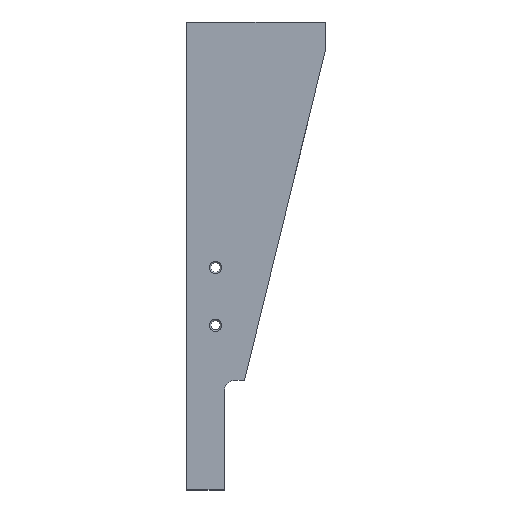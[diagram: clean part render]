
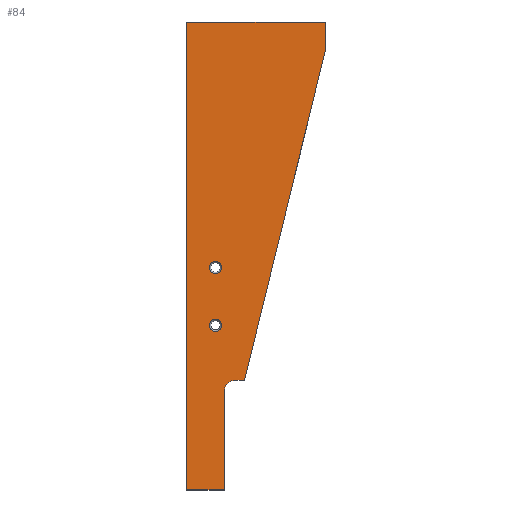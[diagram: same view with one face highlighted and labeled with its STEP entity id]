
A CAD part, top view. The second image highlights one B-rep face of the part: STEP entity #84.
In plain terms, the highlighted planar face has unit normal (0, 0, 1).
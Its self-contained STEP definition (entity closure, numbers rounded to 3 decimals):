
#84=ADVANCED_FACE('',(#306,#308,#310),#312,.T.);
#306=FACE_BOUND('',#307,.T.);
#307=EDGE_LOOP('',(#500,#501,#502,#503,#504,#505,#506,#507));
#308=FACE_BOUND('',#309,.T.);
#309=EDGE_LOOP('',(#508));
#310=FACE_BOUND('',#311,.T.);
#311=EDGE_LOOP('',(#509));
#312=PLANE('',#313);
#313=AXIS2_PLACEMENT_3D('',#314,#315,#316);
#314=CARTESIAN_POINT('',(0.,0.,10.));
#315=DIRECTION('',(0.,0.,1.));
#316=DIRECTION('',(-1.,0.,0.));
#500=ORIENTED_EDGE('',*,*,#580,.T.);
#501=ORIENTED_EDGE('',*,*,#581,.T.);
#502=ORIENTED_EDGE('',*,*,#582,.T.);
#503=ORIENTED_EDGE('',*,*,#562,.T.);
#504=ORIENTED_EDGE('',*,*,#577,.T.);
#505=ORIENTED_EDGE('',*,*,#583,.T.);
#506=ORIENTED_EDGE('',*,*,#584,.T.);
#507=ORIENTED_EDGE('',*,*,#585,.T.);
#508=ORIENTED_EDGE('',*,*,#586,.T.);
#509=ORIENTED_EDGE('',*,*,#587,.T.);
#562=EDGE_CURVE('',#607,#605,#608,.T.);
#577=EDGE_CURVE('',#605,#633,#635,.T.);
#580=EDGE_CURVE('',#640,#641,#642,.T.);
#581=EDGE_CURVE('',#641,#643,#644,.T.);
#582=EDGE_CURVE('',#643,#607,#645,.T.);
#583=EDGE_CURVE('',#633,#646,#647,.T.);
#584=EDGE_CURVE('',#646,#648,#649,.T.);
#585=EDGE_CURVE('',#648,#640,#650,.T.);
#586=EDGE_CURVE('',#651,#651,#652,.F.);
#587=EDGE_CURVE('',#653,#653,#654,.F.);
#605=VERTEX_POINT('',#683);
#607=VERTEX_POINT('',#687);
#608=LINE('',#688,#689);
#633=VERTEX_POINT('',#747);
#635=LINE('',#751,#752);
#640=VERTEX_POINT('',#764);
#641=VERTEX_POINT('',#765);
#642=LINE('',#766,#767);
#643=VERTEX_POINT('',#769);
#644=LINE('',#770,#771);
#645=LINE('',#773,#774);
#646=VERTEX_POINT('',#776);
#647=LINE('',#777,#778);
#648=VERTEX_POINT('',#780);
#649=LINE('',#781,#782);
#650=CIRCLE('',#784,4.);
#651=VERTEX_POINT('',#788);
#652=CIRCLE('',#789,2.121);
#653=VERTEX_POINT('',#793);
#654=CIRCLE('',#794,2.121);
#683=CARTESIAN_POINT('',(2.25,162.,10.));
#687=CARTESIAN_POINT('',(50.25,162.,10.));
#688=CARTESIAN_POINT('',(50.25,162.,10.));
#689=VECTOR('',#690,1.);
#690=DIRECTION('',(-1.,0.,0.));
#747=CARTESIAN_POINT('',(2.25,0.,10.));
#751=CARTESIAN_POINT('',(2.25,162.,10.));
#752=VECTOR('',#753,1.);
#753=DIRECTION('',(0.,-1.,0.));
#764=CARTESIAN_POINT('',(19.25,38.,10.));
#765=CARTESIAN_POINT('',(22.25,38.,10.));
#766=CARTESIAN_POINT('',(19.25,38.,10.));
#767=VECTOR('',#768,1.);
#768=DIRECTION('',(1.,0.,0.));
#769=CARTESIAN_POINT('',(50.25,152.,10.));
#770=CARTESIAN_POINT('',(22.25,38.,10.));
#771=VECTOR('',#772,1.);
#772=DIRECTION('',(0.239,0.971,0.));
#773=CARTESIAN_POINT('',(50.25,152.,10.));
#774=VECTOR('',#775,1.);
#775=DIRECTION('',(0.,1.,0.));
#776=CARTESIAN_POINT('',(15.25,0.,10.));
#777=CARTESIAN_POINT('',(2.25,0.,10.));
#778=VECTOR('',#779,1.);
#779=DIRECTION('',(1.,0.,0.));
#780=CARTESIAN_POINT('',(15.25,34.,10.));
#781=CARTESIAN_POINT('',(15.25,0.,10.));
#782=VECTOR('',#783,1.);
#783=DIRECTION('',(0.,1.,0.));
#784=AXIS2_PLACEMENT_3D('',#785,#786,#787);
#785=CARTESIAN_POINT('',(19.25,34.,10.));
#786=DIRECTION('',(0.,0.,-1.));
#787=DIRECTION('',(-1.,0.,0.));
#788=CARTESIAN_POINT('',(10.129,57.,10.));
#789=AXIS2_PLACEMENT_3D('',#790,#791,#792);
#790=CARTESIAN_POINT('',(12.25,57.,10.));
#791=DIRECTION('',(0.,0.,1.));
#792=DIRECTION('',(-1.,0.,0.));
#793=CARTESIAN_POINT('',(10.129,77.,10.));
#794=AXIS2_PLACEMENT_3D('',#795,#796,#797);
#795=CARTESIAN_POINT('',(12.25,77.,10.));
#796=DIRECTION('',(0.,0.,1.));
#797=DIRECTION('',(-1.,0.,0.));
